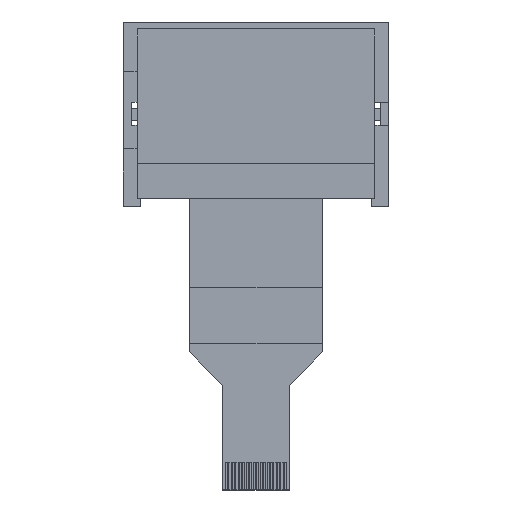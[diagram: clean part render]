
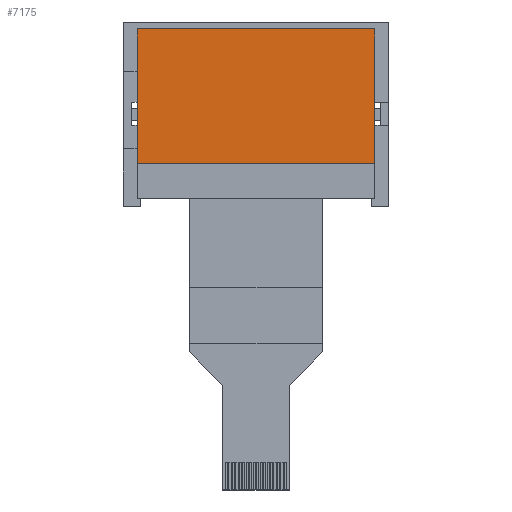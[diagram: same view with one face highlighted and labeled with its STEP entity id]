
A CAD part, top view. The second image highlights one B-rep face of the part: STEP entity #7175.
In plain terms, the highlighted planar face has unit normal (0, 0, 1).
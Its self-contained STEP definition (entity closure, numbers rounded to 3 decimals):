
#284 = CARTESIAN_POINT ( 'NONE',  ( 17., 9.61, 3.3 ) ) ;
#405 = DIRECTION ( 'NONE',  ( 1., 0., 0. ) ) ;
#531 = DIRECTION ( 'NONE',  ( 0., -1., 0. ) ) ;
#1282 = VERTEX_POINT ( 'NONE', #3502 ) ;
#1727 = CARTESIAN_POINT ( 'NONE',  ( -17., 9.61, 3.3 ) ) ;
#1793 = AXIS2_PLACEMENT_3D ( 'NONE', #7246, #7890, #405 ) ;
#2293 = ORIENTED_EDGE ( 'NONE', *, *, #8171, .T. ) ;
#2879 = VERTEX_POINT ( 'NONE', #5745 ) ;
#2912 = CARTESIAN_POINT ( 'NONE',  ( -17., 9.61, 3.3 ) ) ;
#3077 = EDGE_CURVE ( 'NONE', #2879, #3758, #6192, .T. ) ;
#3394 = FACE_OUTER_BOUND ( 'NONE', #5275, .T. ) ;
#3407 = VECTOR ( 'NONE', #531, 1000. ) ;
#3502 = CARTESIAN_POINT ( 'NONE',  ( -17., 9.61, 3.3 ) ) ;
#3613 = EDGE_CURVE ( 'NONE', #1282, #6010, #5950, .T. ) ;
#3758 = VERTEX_POINT ( 'NONE', #4838 ) ;
#4397 = EDGE_CURVE ( 'NONE', #6010, #2879, #7655, .T. ) ;
#4739 = PLANE ( 'NONE',  #1793 ) ;
#4838 = CARTESIAN_POINT ( 'NONE',  ( 17., 9.61, 3.3 ) ) ;
#5153 = DIRECTION ( 'NONE',  ( 1., 0., 0. ) ) ;
#5275 = EDGE_LOOP ( 'NONE', ( #6768, #7453, #5789, #2293 ) ) ;
#5745 = CARTESIAN_POINT ( 'NONE',  ( 17., -9.61, 3.3 ) ) ;
#5781 = VECTOR ( 'NONE', #6655, 1000. ) ;
#5789 = ORIENTED_EDGE ( 'NONE', *, *, #3077, .T. ) ;
#5950 = LINE ( 'NONE', #1727, #3407 ) ;
#6010 = VERTEX_POINT ( 'NONE', #6943 ) ;
#6192 = LINE ( 'NONE', #284, #5781 ) ;
#6381 = CARTESIAN_POINT ( 'NONE',  ( -17., -9.61, 3.3 ) ) ;
#6401 = VECTOR ( 'NONE', #7315, 1000. ) ;
#6655 = DIRECTION ( 'NONE',  ( 0., 1., 0. ) ) ;
#6768 = ORIENTED_EDGE ( 'NONE', *, *, #3613, .T. ) ;
#6943 = CARTESIAN_POINT ( 'NONE',  ( -17., -9.61, 3.3 ) ) ;
#7175 = ADVANCED_FACE ( 'NONE', ( #3394 ), #4739, .T. ) ;
#7246 = CARTESIAN_POINT ( 'NONE',  ( 0., 0., 3.3 ) ) ;
#7315 = DIRECTION ( 'NONE',  ( -1., 0., 0. ) ) ;
#7453 = ORIENTED_EDGE ( 'NONE', *, *, #4397, .T. ) ;
#7490 = LINE ( 'NONE', #2912, #6401 ) ;
#7655 = LINE ( 'NONE', #6381, #8070 ) ;
#7890 = DIRECTION ( 'NONE',  ( 0., 0., 1. ) ) ;
#8070 = VECTOR ( 'NONE', #5153, 1000. ) ;
#8171 = EDGE_CURVE ( 'NONE', #3758, #1282, #7490, .T. ) ;
